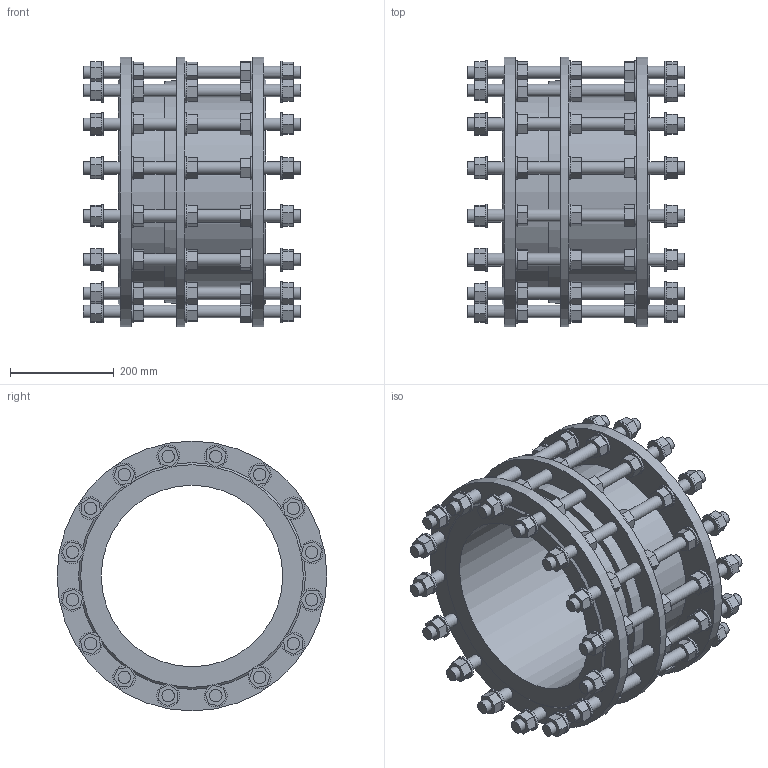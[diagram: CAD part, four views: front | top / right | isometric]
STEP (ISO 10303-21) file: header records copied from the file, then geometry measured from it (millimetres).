
FILE_DESCRIPTION (( 'STEP AP203' ), '1' );
FILE_NAME ('O_265_910_DN350_1XXXXX00_L=285_REV01.step', '2024-10-11T09:12:32', ( '' ), ( '' ), 'SwSTEP 2.0', 'SolidWorks 2022', '' );
FILE_SCHEMA (( 'CONFIG_CONTROL_DESIGN' ));
Length unit declared in the file: millimetre
Products named in the file (1): O_265_910_DN350_1XXXXX00_L=285_REV01
Bounding box: 420 x 520 x 520 mm (x, y, z)
Volume: 15258683.1 mm3; surface area: 1872539.7 mm2
Topology: 1 solids, 1 shells, 939 faces, 2201 edges, 1499 vertices
Faces by surface type: plane 752, cylinder 184, cone 3
Full cylindrical faces by diameter (mm): 24 x96, 44 x80, 350 x1, 366 x1, 396 x1, 520 x3
Entity records: 25198 total; most frequent: CARTESIAN_POINT 4265, DIRECTION 4175, ORIENTED_EDGE 3842, EDGE_CURVE 1921, VECTOR 1547, LINE 1547, EDGE_LOOP 1425, VERTEX_POINT 1404
